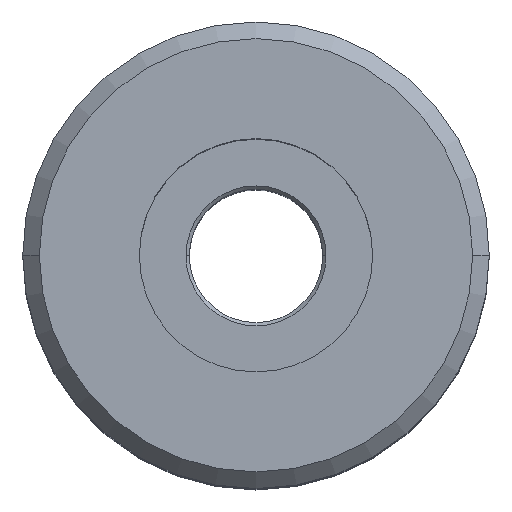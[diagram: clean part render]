
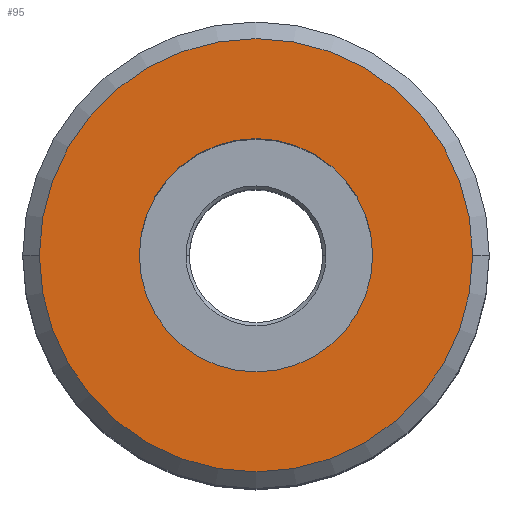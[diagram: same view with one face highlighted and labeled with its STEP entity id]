
A CAD part, top view. The second image highlights one B-rep face of the part: STEP entity #95.
In plain terms, the highlighted planar face has unit normal (0, 0, 1).
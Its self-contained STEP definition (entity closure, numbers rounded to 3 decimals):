
#95=ADVANCED_FACE('',(#161,#162),#163,.T.);
#161=FACE_BOUND('',#228,.T.);
#162=FACE_OUTER_BOUND('',#229,.T.);
#163=PLANE('',#230);
#228=EDGE_LOOP('',(#455,#456));
#229=EDGE_LOOP('',(#457,#458));
#230=AXIS2_PLACEMENT_3D('',#459,#460,#461);
#455=ORIENTED_EDGE('',*,*,#526,.F.);
#456=ORIENTED_EDGE('',*,*,#525,.F.);
#457=ORIENTED_EDGE('',*,*,#518,.T.);
#458=ORIENTED_EDGE('',*,*,#530,.T.);
#459=CARTESIAN_POINT('',(10.,0.,49.532));
#460=DIRECTION('',(-0.0,0.,1.0));
#461=DIRECTION('',(1.0,0.0,0.0));
#518=EDGE_CURVE('',#618,#622,#624,.T.);
#525=EDGE_CURVE('',#635,#631,#637,.T.);
#526=EDGE_CURVE('',#631,#635,#638,.T.);
#530=EDGE_CURVE('',#622,#618,#642,.T.);
#618=VERTEX_POINT('',#746);
#622=VERTEX_POINT('',#751);
#624=CIRCLE('',#754,13.0);
#631=VERTEX_POINT('',#763);
#635=VERTEX_POINT('',#768);
#637=CIRCLE('',#771,7.);
#638=CIRCLE('',#772,7.);
#642=CIRCLE('',#776,13.0);
#746=CARTESIAN_POINT('',(13.0,0.,49.532));
#751=CARTESIAN_POINT('',(-13.0,0.,49.532));
#754=AXIS2_PLACEMENT_3D('',#909,#910,#911);
#763=CARTESIAN_POINT('',(7.,0.,49.532));
#768=CARTESIAN_POINT('',(-7.,0.,49.532));
#771=AXIS2_PLACEMENT_3D('',#922,#923,#924);
#772=AXIS2_PLACEMENT_3D('',#925,#926,#927);
#776=AXIS2_PLACEMENT_3D('',#937,#938,#939);
#909=CARTESIAN_POINT('',(0.0,0.,49.532));
#910=DIRECTION('',(-0.0,0.,1.0));
#911=DIRECTION('',(1.0,0.0,0.0));
#922=CARTESIAN_POINT('',(0.0,0.,49.532));
#923=DIRECTION('',(-0.0,0.,1.0));
#924=DIRECTION('',(1.0,0.0,0.0));
#925=CARTESIAN_POINT('',(0.0,0.,49.532));
#926=DIRECTION('',(-0.0,0.,1.0));
#927=DIRECTION('',(1.0,0.0,0.0));
#937=CARTESIAN_POINT('',(0.0,0.,49.532));
#938=DIRECTION('',(-0.0,0.,1.0));
#939=DIRECTION('',(1.0,0.0,0.0));
